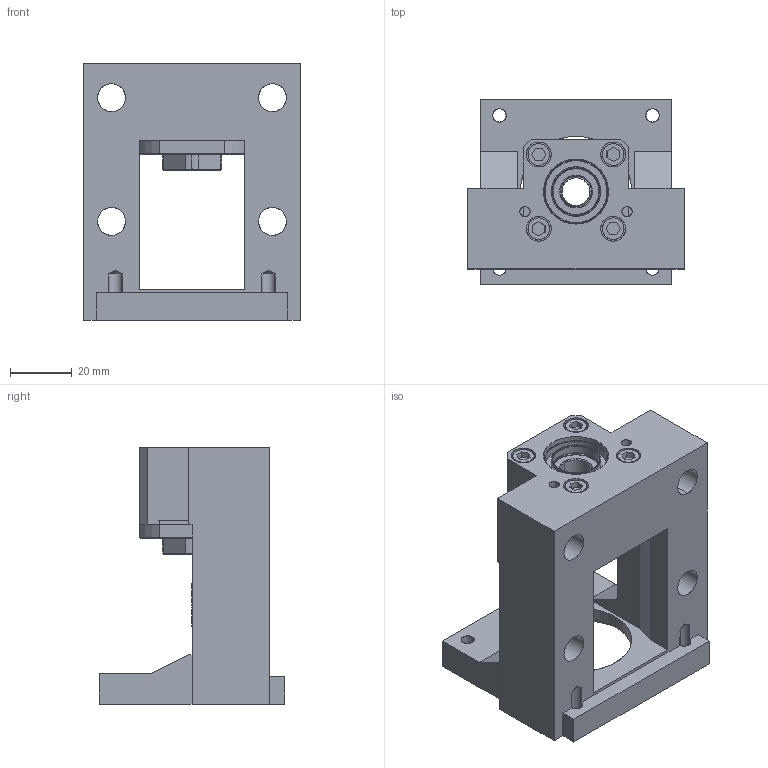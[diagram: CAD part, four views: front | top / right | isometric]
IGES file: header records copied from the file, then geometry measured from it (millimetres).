
Start section: SolidWorks IGES file using analytic representation for surfaces
Global section: file name: C:\Users\117\Desktop\1061208網站3D圖檔問題處理\傳動座\整合型\MBCE\MBCE10-D.IGS,15HSolidWorks; native system: 2017; preprocessor: SolidWorks 2017; author: 117; date: 171228.152307; units: millimetre
Bounding box: 70 x 60 x 83 mm (x, y, z)
Surface area: 34658.1 mm2 (no closed solid volume)
Topology: 0 solids, 0 shells, 243 faces, 3711 edges, 3707 vertices
Faces by surface type: revolution 126, bspline 117
